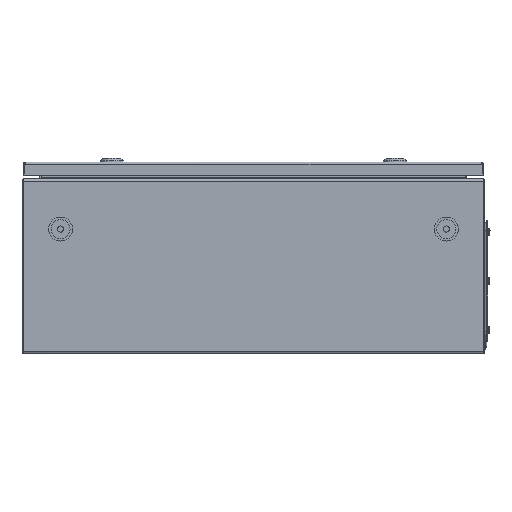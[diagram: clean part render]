
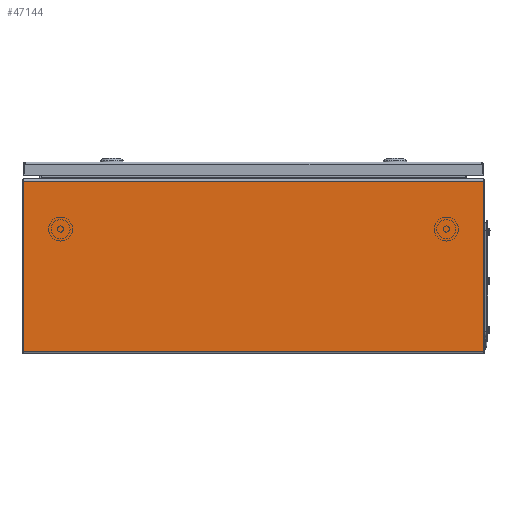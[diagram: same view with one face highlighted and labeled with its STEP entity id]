
A CAD part, left-side view. The second image highlights one B-rep face of the part: STEP entity #47144.
In plain terms, the highlighted planar face has unit normal (-1, 0, 0).
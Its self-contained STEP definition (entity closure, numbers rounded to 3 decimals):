
#1795 = ORIENTED_EDGE ( 'NONE', *, *, #48288, .F. ) ;
#2895 = PLANE ( 'NONE',  #49658 ) ;
#3484 = VERTEX_POINT ( 'NONE', #19493 ) ;
#4257 = DIRECTION ( 'NONE',  ( 0., 0., 1. ) ) ;
#4877 = CARTESIAN_POINT ( 'NONE',  ( -200., -298.423, 2.9 ) ) ;
#5859 = LINE ( 'NONE', #33488, #32672 ) ;
#5877 = EDGE_CURVE ( 'NONE', #49536, #39116, #16550, .T. ) ;
#6546 = LINE ( 'NONE', #10716, #11454 ) ;
#6794 = DIRECTION ( 'NONE',  ( 0., 1., 0. ) ) ;
#8168 = EDGE_CURVE ( 'NONE', #34623, #19069, #28534, .T. ) ;
#8376 = CARTESIAN_POINT ( 'NONE',  ( -200., -298.529, 2.9 ) ) ;
#8521 = EDGE_LOOP ( 'NONE', ( #22316, #35924, #40967, #1795, #35375, #14714, #29422, #50980 ) ) ;
#9023 = CARTESIAN_POINT ( 'NONE',  ( -200., -3300., 223.85 ) ) ;
#9480 = VECTOR ( 'NONE', #36656, 1000. ) ;
#10646 = DIRECTION ( 'NONE',  ( 0., 1., 0. ) ) ;
#10716 = CARTESIAN_POINT ( 'NONE',  ( -200., 298.423, 2.9 ) ) ;
#11454 = VECTOR ( 'NONE', #6794, 1000. ) ;
#14618 = DIRECTION ( 'NONE',  ( 0., 0., -1. ) ) ;
#14714 = ORIENTED_EDGE ( 'NONE', *, *, #40876, .T. ) ;
#14876 = DIRECTION ( 'NONE',  ( 1., 0., 0. ) ) ;
#15447 = VECTOR ( 'NONE', #10646, 1000. ) ;
#15657 = VECTOR ( 'NONE', #26835, 1000. ) ;
#16550 = LINE ( 'NONE', #39225, #37127 ) ;
#16727 = CARTESIAN_POINT ( 'NONE',  ( -200., -298.423, 223.85 ) ) ;
#18087 = CARTESIAN_POINT ( 'NONE',  ( -200., 298.423, 223.85 ) ) ;
#18242 = VERTEX_POINT ( 'NONE', #8376 ) ;
#19069 = VERTEX_POINT ( 'NONE', #18087 ) ;
#19493 = CARTESIAN_POINT ( 'NONE',  ( -200., 298.529, 223.85 ) ) ;
#20761 = LINE ( 'NONE', #4877, #9480 ) ;
#22316 = ORIENTED_EDGE ( 'NONE', *, *, #8168, .T. ) ;
#22686 = CARTESIAN_POINT ( 'NONE',  ( -200., 298.529, 223.85 ) ) ;
#23184 = FACE_OUTER_BOUND ( 'NONE', #8521, .T. ) ;
#23727 = EDGE_CURVE ( 'NONE', #18242, #50408, #24043, .T. ) ;
#24043 = LINE ( 'NONE', #51137, #38459 ) ;
#24622 = EDGE_CURVE ( 'NONE', #42944, #3484, #5859, .T. ) ;
#26835 = DIRECTION ( 'NONE',  ( 0., -1., 0. ) ) ;
#27490 = DIRECTION ( 'NONE',  ( 0., 1., 0. ) ) ;
#28534 = LINE ( 'NONE', #9023, #50593 ) ;
#29422 = ORIENTED_EDGE ( 'NONE', *, *, #23727, .T. ) ;
#29539 = LINE ( 'NONE', #22686, #15657 ) ;
#29558 = CARTESIAN_POINT ( 'NONE',  ( -200., 298.529, 2.9 ) ) ;
#30186 = LINE ( 'NONE', #30448, #15447 ) ;
#30448 = CARTESIAN_POINT ( 'NONE',  ( -200., -298.529, 223.85 ) ) ;
#32413 = EDGE_CURVE ( 'NONE', #50408, #34623, #30186, .T. ) ;
#32487 = DIRECTION ( 'NONE',  ( 0., 1., 0. ) ) ;
#32672 = VECTOR ( 'NONE', #40792, 1000. ) ;
#33488 = CARTESIAN_POINT ( 'NONE',  ( -200., 298.529, 2.9 ) ) ;
#34623 = VERTEX_POINT ( 'NONE', #16727 ) ;
#35375 = ORIENTED_EDGE ( 'NONE', *, *, #5877, .F. ) ;
#35924 = ORIENTED_EDGE ( 'NONE', *, *, #48349, .F. ) ;
#36656 = DIRECTION ( 'NONE',  ( 0., -1., 0. ) ) ;
#37127 = VECTOR ( 'NONE', #27490, 1000. ) ;
#38459 = VECTOR ( 'NONE', #4257, 1000. ) ;
#38823 = CARTESIAN_POINT ( 'NONE',  ( -200., -3300., 223.85 ) ) ;
#39116 = VERTEX_POINT ( 'NONE', #43929 ) ;
#39225 = CARTESIAN_POINT ( 'NONE',  ( -200., -3300., 2.9 ) ) ;
#40792 = DIRECTION ( 'NONE',  ( 0., 0., 1. ) ) ;
#40876 = EDGE_CURVE ( 'NONE', #49536, #18242, #20761, .T. ) ;
#40967 = ORIENTED_EDGE ( 'NONE', *, *, #24622, .F. ) ;
#42288 = CARTESIAN_POINT ( 'NONE',  ( -200., -298.529, 223.85 ) ) ;
#42944 = VERTEX_POINT ( 'NONE', #29558 ) ;
#43929 = CARTESIAN_POINT ( 'NONE',  ( -200., 298.423, 2.9 ) ) ;
#47144 = ADVANCED_FACE ( 'NONE', ( #23184 ), #2895, .F. ) ;
#48288 = EDGE_CURVE ( 'NONE', #39116, #42944, #6546, .T. ) ;
#48349 = EDGE_CURVE ( 'NONE', #3484, #19069, #29539, .T. ) ;
#49075 = CARTESIAN_POINT ( 'NONE',  ( -200., -298.423, 2.9 ) ) ;
#49536 = VERTEX_POINT ( 'NONE', #49075 ) ;
#49658 = AXIS2_PLACEMENT_3D ( 'NONE', #38823, #14876, #14618 ) ;
#50408 = VERTEX_POINT ( 'NONE', #42288 ) ;
#50593 = VECTOR ( 'NONE', #32487, 1000. ) ;
#50980 = ORIENTED_EDGE ( 'NONE', *, *, #32413, .T. ) ;
#51137 = CARTESIAN_POINT ( 'NONE',  ( -200., -298.529, 2.9 ) ) ;
